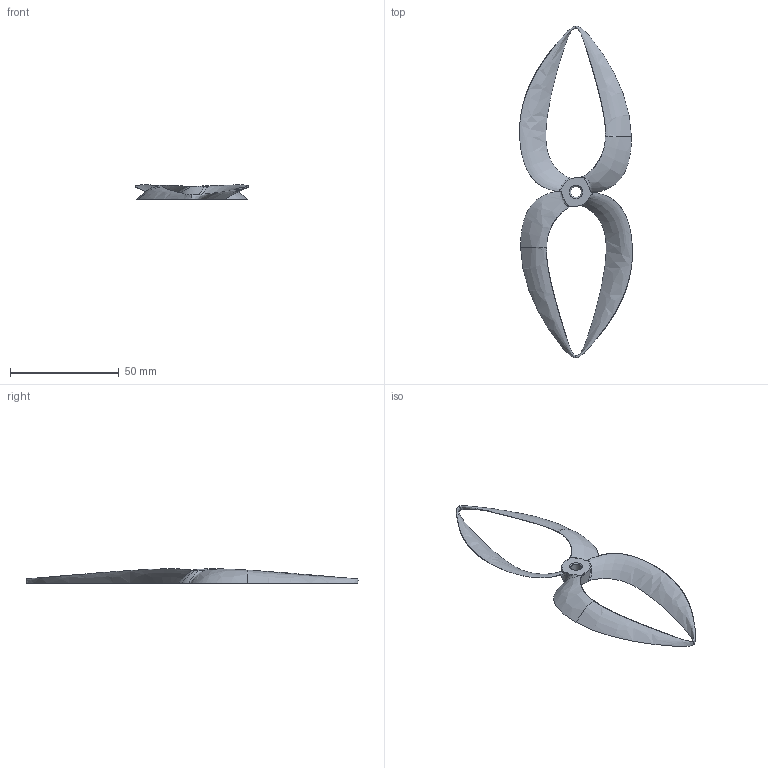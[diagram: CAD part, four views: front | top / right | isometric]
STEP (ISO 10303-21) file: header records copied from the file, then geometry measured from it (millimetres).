
FILE_DESCRIPTION(/* description */ (''),/* implementation_level */ '2;1');
FILE_NAME(/* name */ 'V2 Bi-Loop 6-inch.step',/* time_stamp */ '2023-02-14T12:58:54+07:00',/* author */ (''),/* organization */ (''),/* preprocessor_version */ 'ST-DEVELOPER v19.2',/* originating_system */ 'Autodesk Translation Framework v11.17.0.187',/* authorisation */ '');
FILE_SCHEMA (('AUTOMOTIVE_DESIGN { 1 0 10303 214 3 1 1 }'));
Length unit declared in the file: millimetre
Products named in the file (1): V2 Bi-Loop 6"
Bounding box: 51.79 x 152.4 x 6.59 mm (x, y, z)
Volume: 3533.3 mm3; surface area: 7708.7 mm2
Topology: 1 solids, 1 shells, 29 faces, 89 edges, 58 vertices
Faces by surface type: bspline 14, cylinder 9, plane 4, cone 2
Full cylindrical faces by diameter (mm): 5 x1
Entity records: 3718 total; most frequent: CARTESIAN_POINT 3055, ORIENTED_EDGE 178, EDGE_CURVE 89, DIRECTION 73, VERTEX_POINT 58, B_SPLINE_CURVE_WITH_KNOTS 46, AXIS2_PLACEMENT_3D 34, EDGE_LOOP 31
